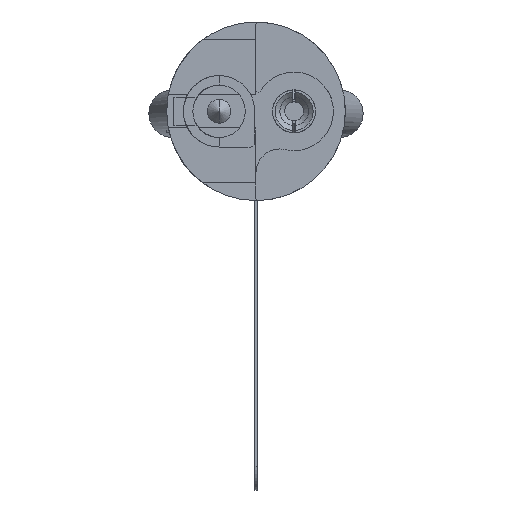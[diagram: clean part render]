
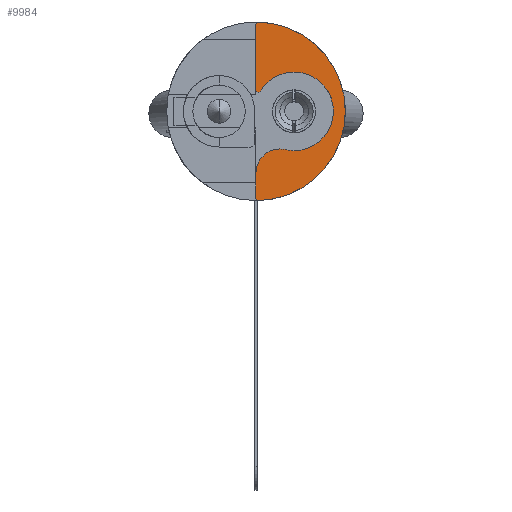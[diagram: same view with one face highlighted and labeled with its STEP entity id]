
A CAD part, left-side view. The second image highlights one B-rep face of the part: STEP entity #9984.
In plain terms, the highlighted planar face has unit normal (-1, 0, 0) as drawn and (0, 0, 1) by its records, which use the part's own axes.
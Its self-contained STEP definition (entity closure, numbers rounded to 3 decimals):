
#24 = ORIENTED_EDGE ( 'NONE', *, *, #20182, .T. ) ;
#129 = CARTESIAN_POINT ( 'NONE',  ( 1.65, 1.6, 24. ) ) ;
#553 = CARTESIAN_POINT ( 'NONE',  ( -0.85, 0.186, 24. ) ) ;
#1005 = AXIS2_PLACEMENT_3D ( 'NONE', #27090, #32645, #24318 ) ;
#1245 = VECTOR ( 'NONE', #6299, 1000. ) ;
#2346 = DIRECTION ( 'NONE',  ( 1., 0., 0. ) ) ;
#2372 = VERTEX_POINT ( 'NONE', #9764 ) ;
#2621 = ORIENTED_EDGE ( 'NONE', *, *, #30749, .T. ) ;
#2664 = DIRECTION ( 'NONE',  ( 0., 0., 1. ) ) ;
#2837 = DIRECTION ( 'NONE',  ( -1., 0., 0. ) ) ;
#2873 = ORIENTED_EDGE ( 'NONE', *, *, #29238, .T. ) ;
#3864 = LINE ( 'NONE', #12024, #1245 ) ;
#3947 = CARTESIAN_POINT ( 'NONE',  ( 0., 0., 24. ) ) ;
#4081 = EDGE_CURVE ( 'NONE', #10400, #33158, #22136, .T. ) ;
#4530 = CARTESIAN_POINT ( 'NONE',  ( 2.581, 1., 24. ) ) ;
#4860 = DIRECTION ( 'NONE',  ( 0., 0., 1. ) ) ;
#4869 = CIRCLE ( 'NONE', #24242, 1. ) ;
#5117 = CARTESIAN_POINT ( 'NONE',  ( -3.749, 0.103, 24. ) ) ;
#5352 = EDGE_CURVE ( 'NONE', #17137, #21977, #16538, .T. ) ;
#5605 = FACE_OUTER_BOUND ( 'NONE', #30613, .T. ) ;
#6299 = DIRECTION ( 'NONE',  ( 1., 0., 0. ) ) ;
#6721 = DIRECTION ( 'NONE',  ( 0., 0., 1. ) ) ;
#7004 = CARTESIAN_POINT ( 'NONE',  ( -0.901, 0., 24. ) ) ;
#7391 = CARTESIAN_POINT ( 'NONE',  ( 3.649, 0., 24. ) ) ;
#7747 = AXIS2_PLACEMENT_3D ( 'NONE', #22689, #33262, #28729 ) ;
#9373 = AXIS2_PLACEMENT_3D ( 'NONE', #25088, #33524, #32892 ) ;
#9764 = CARTESIAN_POINT ( 'NONE',  ( 1.607, 1.226, 24. ) ) ;
#9984 = ADVANCED_FACE ( 'NONE', ( #5605 ), #24659, .F. ) ;
#10105 = ORIENTED_EDGE ( 'NONE', *, *, #4081, .T. ) ;
#10400 = VERTEX_POINT ( 'NONE', #32362 ) ;
#10722 = DIRECTION ( 'NONE',  ( -1., 0., 0. ) ) ;
#10771 = CARTESIAN_POINT ( 'NONE',  ( -1.65, 1.6, 24. ) ) ;
#10940 = AXIS2_PLACEMENT_3D ( 'NONE', #13453, #34070, #2346 ) ;
#11685 = VERTEX_POINT ( 'NONE', #553 ) ;
#12024 = CARTESIAN_POINT ( 'NONE',  ( -0.901, 0., 24. ) ) ;
#12136 = EDGE_CURVE ( 'NONE', #25142, #19435, #12433, .T. ) ;
#12433 = LINE ( 'NONE', #7391, #16982 ) ;
#12905 = CIRCLE ( 'NONE', #19540, 1.65 ) ;
#12996 = CARTESIAN_POINT ( 'NONE',  ( 0., 1.6, 24. ) ) ;
#13003 = CIRCLE ( 'NONE', #16853, 0.1 ) ;
#13230 = CARTESIAN_POINT ( 'NONE',  ( 3.649, 0., 24. ) ) ;
#13453 = CARTESIAN_POINT ( 'NONE',  ( 0., 1.6, 24. ) ) ;
#13543 = ORIENTED_EDGE ( 'NONE', *, *, #5352, .T. ) ;
#13597 = CARTESIAN_POINT ( 'NONE',  ( 3.649, 0.1, 24. ) ) ;
#13780 = AXIS2_PLACEMENT_3D ( 'NONE', #12996, #18699, #18873 ) ;
#14690 = DIRECTION ( 'NONE',  ( 1., 0., 0. ) ) ;
#15099 = DIRECTION ( 'NONE',  ( -1., 0., 0. ) ) ;
#15320 = EDGE_CURVE ( 'NONE', #25561, #11685, #31529, .T. ) ;
#15553 = VERTEX_POINT ( 'NONE', #31964 ) ;
#15884 = CARTESIAN_POINT ( 'NONE',  ( -3.649, 0.1, 24. ) ) ;
#16538 = CIRCLE ( 'NONE', #13780, 1.65 ) ;
#16853 = AXIS2_PLACEMENT_3D ( 'NONE', #15884, #26295, #10722 ) ;
#16982 = VECTOR ( 'NONE', #20729, 1000. ) ;
#17137 = VERTEX_POINT ( 'NONE', #10771 ) ;
#17326 = DIRECTION ( 'NONE',  ( 1., 0., 0. ) ) ;
#17622 = AXIS2_PLACEMENT_3D ( 'NONE', #4530, #4860, #15099 ) ;
#18508 = ORIENTED_EDGE ( 'NONE', *, *, #23923, .T. ) ;
#18699 = DIRECTION ( 'NONE',  ( 0., 0., -1. ) ) ;
#18753 = ORIENTED_EDGE ( 'NONE', *, *, #15320, .T. ) ;
#18873 = DIRECTION ( 'NONE',  ( 1., 0., 0. ) ) ;
#19169 = ORIENTED_EDGE ( 'NONE', *, *, #22637, .T. ) ;
#19311 = ORIENTED_EDGE ( 'NONE', *, *, #34071, .T. ) ;
#19435 = VERTEX_POINT ( 'NONE', #13230 ) ;
#19540 = AXIS2_PLACEMENT_3D ( 'NONE', #25468, #25637, #17326 ) ;
#19792 = DIRECTION ( 'NONE',  ( 0., 0., 1. ) ) ;
#20117 = AXIS2_PLACEMENT_3D ( 'NONE', #13597, #2664, #2837 ) ;
#20182 = EDGE_CURVE ( 'NONE', #11685, #17137, #27535, .T. ) ;
#20729 = DIRECTION ( 'NONE',  ( 1., 0., 0. ) ) ;
#20777 = EDGE_CURVE ( 'NONE', #2372, #15553, #4869, .T. ) ;
#21977 = VERTEX_POINT ( 'NONE', #129 ) ;
#22034 = CIRCLE ( 'NONE', #17622, 1. ) ;
#22087 = CIRCLE ( 'NONE', #9373, 0.1 ) ;
#22136 = CIRCLE ( 'NONE', #28224, 3.75 ) ;
#22637 = EDGE_CURVE ( 'NONE', #15553, #25142, #22034, .T. ) ;
#22689 = CARTESIAN_POINT ( 'NONE',  ( -0.901, 0.1, 24. ) ) ;
#23923 = EDGE_CURVE ( 'NONE', #33158, #28843, #22087, .T. ) ;
#24242 = AXIS2_PLACEMENT_3D ( 'NONE', #27769, #19792, #30196 ) ;
#24318 = DIRECTION ( 'NONE',  ( -1., 0., 0. ) ) ;
#24659 = PLANE ( 'NONE',  #1005 ) ;
#24769 = CARTESIAN_POINT ( 'NONE',  ( -3.749, 0.1, 24. ) ) ;
#25088 = CARTESIAN_POINT ( 'NONE',  ( -3.649, 0.1, 24. ) ) ;
#25117 = CARTESIAN_POINT ( 'NONE',  ( -3.649, 0., 24. ) ) ;
#25142 = VERTEX_POINT ( 'NONE', #32538 ) ;
#25468 = CARTESIAN_POINT ( 'NONE',  ( 0., 1.6, 24. ) ) ;
#25561 = VERTEX_POINT ( 'NONE', #7004 ) ;
#25637 = DIRECTION ( 'NONE',  ( 0., 0., -1. ) ) ;
#26295 = DIRECTION ( 'NONE',  ( 0., 0., 1. ) ) ;
#27052 = ORIENTED_EDGE ( 'NONE', *, *, #20777, .T. ) ;
#27090 = CARTESIAN_POINT ( 'NONE',  ( 3.649, 0.1, 24. ) ) ;
#27535 = CIRCLE ( 'NONE', #10940, 1.65 ) ;
#27769 = CARTESIAN_POINT ( 'NONE',  ( 2.581, 1., 24. ) ) ;
#28224 = AXIS2_PLACEMENT_3D ( 'NONE', #3947, #6721, #14690 ) ;
#28729 = DIRECTION ( 'NONE',  ( -1., 0., 0. ) ) ;
#28843 = VERTEX_POINT ( 'NONE', #24769 ) ;
#28909 = EDGE_CURVE ( 'NONE', #21977, #2372, #12905, .T. ) ;
#28940 = CIRCLE ( 'NONE', #20117, 0.1 ) ;
#29238 = EDGE_CURVE ( 'NONE', #19435, #10400, #28940, .T. ) ;
#30196 = DIRECTION ( 'NONE',  ( -1., 0., 0. ) ) ;
#30613 = EDGE_LOOP ( 'NONE', ( #2873, #10105, #18508, #2621, #19311, #18753, #24, #13543, #34007, #27052, #19169, #33511 ) ) ;
#30749 = EDGE_CURVE ( 'NONE', #28843, #31457, #13003, .T. ) ;
#31457 = VERTEX_POINT ( 'NONE', #25117 ) ;
#31529 = CIRCLE ( 'NONE', #7747, 0.1 ) ;
#31964 = CARTESIAN_POINT ( 'NONE',  ( 1.581, 1., 24. ) ) ;
#32362 = CARTESIAN_POINT ( 'NONE',  ( 3.749, 0.103, 24. ) ) ;
#32538 = CARTESIAN_POINT ( 'NONE',  ( 2.581, 0., 24. ) ) ;
#32645 = DIRECTION ( 'NONE',  ( 0., 0., -1. ) ) ;
#32892 = DIRECTION ( 'NONE',  ( -1., 0., 0. ) ) ;
#33158 = VERTEX_POINT ( 'NONE', #5117 ) ;
#33262 = DIRECTION ( 'NONE',  ( 0., 0., 1. ) ) ;
#33511 = ORIENTED_EDGE ( 'NONE', *, *, #12136, .T. ) ;
#33524 = DIRECTION ( 'NONE',  ( 0., 0., 1. ) ) ;
#34007 = ORIENTED_EDGE ( 'NONE', *, *, #28909, .T. ) ;
#34070 = DIRECTION ( 'NONE',  ( 0., 0., -1. ) ) ;
#34071 = EDGE_CURVE ( 'NONE', #31457, #25561, #3864, .T. ) ;
